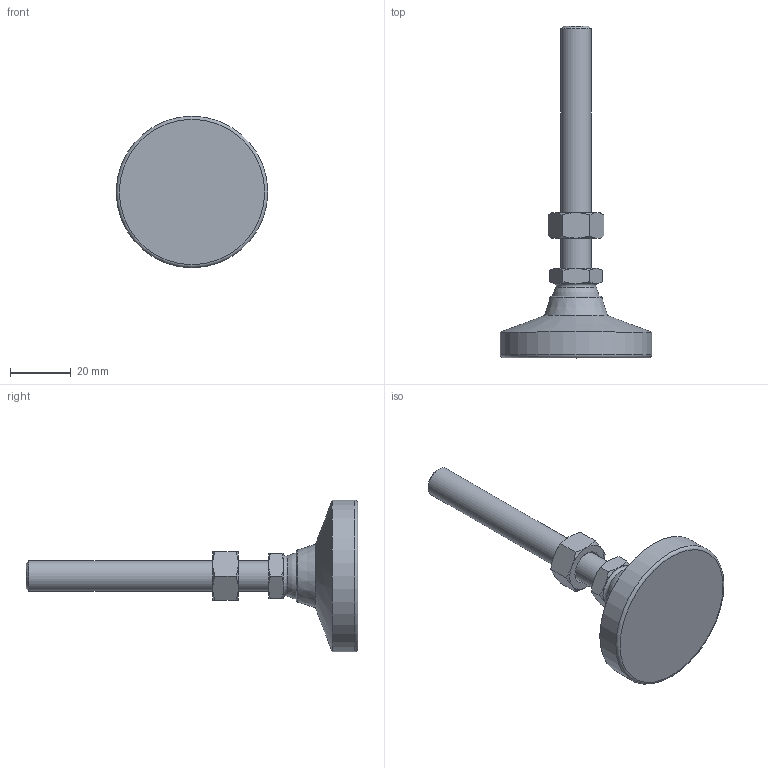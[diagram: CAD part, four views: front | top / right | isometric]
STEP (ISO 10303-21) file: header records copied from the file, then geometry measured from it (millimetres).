
FILE_DESCRIPTION( ( 'STEP AP214' ), ' ' );
FILE_NAME( 'O:/ganter_2015/teil_2/2_5/gn343_2/gn343_2_kre/Levelling foot with threaded stud GN 343.2-50-M10-80-KRE-(0).stp', '2015-10-26T09:19:34', ( '' ), ( '' ), ' ', 'PARTsolutions', ' ' );
FILE_SCHEMA( ( 'AUTOMOTIVE_DESIGN { 1 0 10303 214 1 1 1 1 }' ) );
Length unit declared in the file: millimetre
Products named in the file (4): Levelling foot with threaded stud GN 343.2-50-M10-80-KRE-(0); _Levelling foot with threaded stud GN 343.2-50-M10-80-KRE-(0)_foot; _Levelling foot with threaded stud GN 343.2-50-M10-80-KRE-(0)_screw; _Levelling foot with threaded stud GN 343.2-50-M10-80-KRE-(0)_nut
Assembly tree (3 placements, depth 2):
  Levelling foot with threaded stud GN 343.2-50-M10-80-KRE-(0)
    _Levelling foot with threaded stud GN 343.2-50-M10-80-KRE-(0)_foot
    _Levelling foot with threaded stud GN 343.2-50-M10-80-KRE-(0)_screw
    _Levelling foot with threaded stud GN 343.2-50-M10-80-KRE-(0)_nut
Bounding box: 50 x 109.5 x 50 mm (x, y, z)
Volume: 33439.4 mm3; surface area: 10388.7 mm2
Topology: 3 solids, 3 shells, 56 faces, 117 edges, 68 vertices
Faces by surface type: cone 29, plane 19, torus 3, cylinder 3, sphere 2
Full cylindrical faces by diameter (mm): 8.376 x1, 10 x1, 50 x1
Entity records: 2066 total; most frequent: CARTESIAN_POINT 498, DIRECTION 212, ORIENTED_EDGE 200, AXIS2_PLACEMENT_3D 100, EDGE_CURVE 100, EDGE_LOOP 72, VERTEX_POINT 66, FACE_OUTER_BOUND 62
